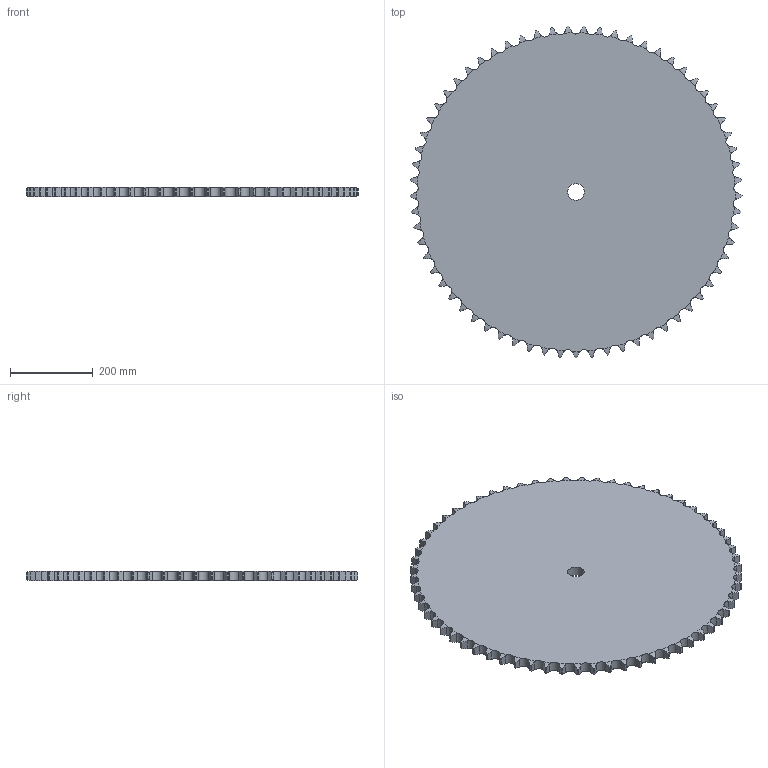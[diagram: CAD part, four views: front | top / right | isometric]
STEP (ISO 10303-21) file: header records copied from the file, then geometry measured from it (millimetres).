
FILE_DESCRIPTION((''),'2;1');
FILE_NAME('500-701-0065_PRT','2021-02-12T',('Brieden'),('Brieden'),'PRO/ENGINEER BY PARAMETRIC TECHNOLOGY CORPORATION, 2010160','PRO/ENGINEER BY PARAMETRIC TECHNOLOGY CORPORATION, 2010160','');
FILE_SCHEMA(('AUTOMOTIVE_DESIGN { 1 0 10303 214 1 1 1 1 }'));
Length unit declared in the file: millimetre
Products named in the file (1): 500-701-0065_PRT
Bounding box: 802.08 x 801.85 x 24.1 mm (x, y, z)
Volume: 11383789.1 mm3; surface area: 1034958.1 mm2
Topology: 1 solids, 1 shells, 394 faces, 1176 edges, 784 vertices
Faces by surface type: cylinder 262, torus 130, plane 2
Entity records: 20352 total; most frequent: CARTESIAN_POINT 6793, ORIENTED_EDGE 2352, DIRECTION 1838, PRESENTATION_STYLE_ASSIGNMENT 1177, STYLED_ITEM 1177, CURVE_STYLE 1176, EDGE_CURVE 1176, AXIS2_PLACEMENT_3D 788
